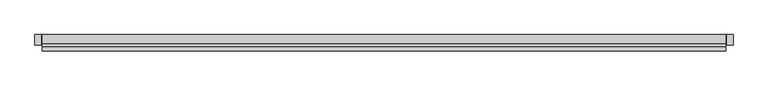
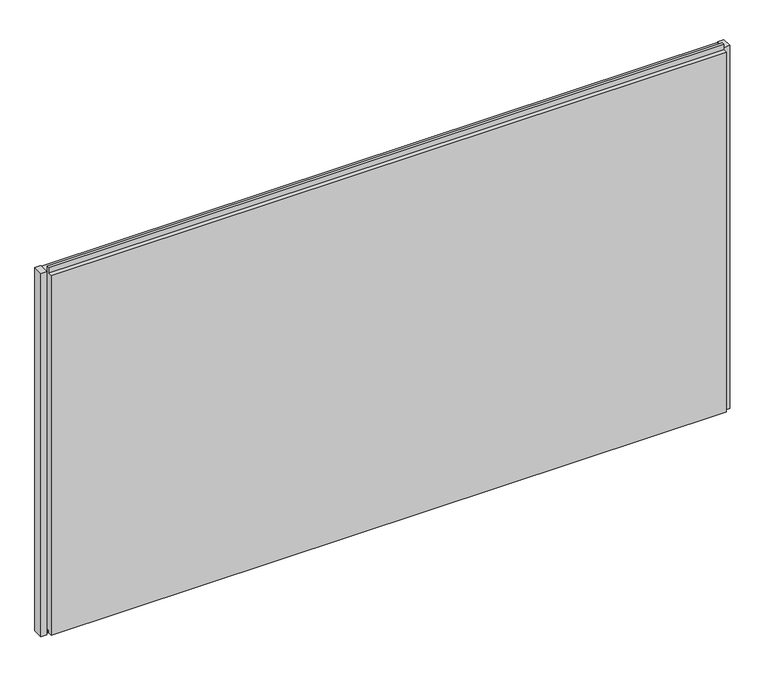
"""IFC4 building model written with IfcOpenShell, lengths in millimetres: plate geometry, Trimo_Qbiss Screen_Normal Panel-HORIZONTAL : HR - FB-F."""

from ifc_helpers import new_model, si_unit, frame, origin, place, context, project, spatial, polyline, outline, extrude, source, transform, mapped, element, save


def plate_ce90e10d(model_context):
    return source(origin(), model_context, "Body", "SweptSolid", [
        extrude(outline(polyline([(-1056.75, 112.8978162), (-1075.75, 112.8978162), (-1075.75, 145.0), (-1056.75, 145.0), (-1056.75, 112.8978162)])), frame((0.0, 0.0, -1.0), z_axis=(0.0, 0.0, 1.0), x_axis=(1.0, 0.0, 0.0)), (0.0, 0.0, 1.0), 1200.0),
        extrude(outline(polyline([(1075.75, 112.8978162), (1056.75, 112.8978162), (1056.75, 145.0), (1075.75, 145.0), (1075.75, 112.8978162)])), frame((0.0, 0.0, -1.0), z_axis=(0.0, 0.0, 1.0), x_axis=(1.0, 0.0, 0.0)), (0.0, 0.0, 1.0), 1200.0),
        extrude(outline(polyline([(116.0, 1196.0), (145.0, 1196.0), (145.0, 0.0), (117.0, 0.0), (117.0, 15.5), (107.0, 15.5), (107.0, 7.0), (95.0, 7.0), (95.0, 1196.0), (108.0, 1196.0), (108.0, 1214.5), (116.0, 1214.5), (116.0, 1196.0)])), frame((-1053.75, 0.0, 0.0), z_axis=(1.0, 0.0, 0.0), x_axis=(0.0, 1.0, 0.0)), (0.0, 0.0, 1.0), 2107.5),
    ])


if __name__ == "__main__":
    model = new_model("IFC4")
    model_context = context("Model", 3, world=origin())
    ifc_project = project(units=[si_unit("LENGTHUNIT", "METRE", prefix="MILLI")], contexts=[model_context])
    site = spatial("IfcSite", under=ifc_project)
    building = spatial("IfcBuilding", under=site)
    placement = place(None, origin())
    plate_shape = plate_ce90e10d(model_context)
    element("IfcPlate", 1, ObjectType="Trimo_Qbiss Screen_Normal Panel-HORIZONTAL : HR - FB-F", at=placement, inside=building, context=model_context, shape_type="MappedRepresentation", body=[
        mapped(plate_shape, transform((0.0, 0.0, 0.0), x_axis=(1.0, 0.0, 0.0), y_axis=(0.0, 1.0, 0.0), z_axis=(0.0, 0.0, 1.0))),
    ])
    save(model, "model.ifc")
